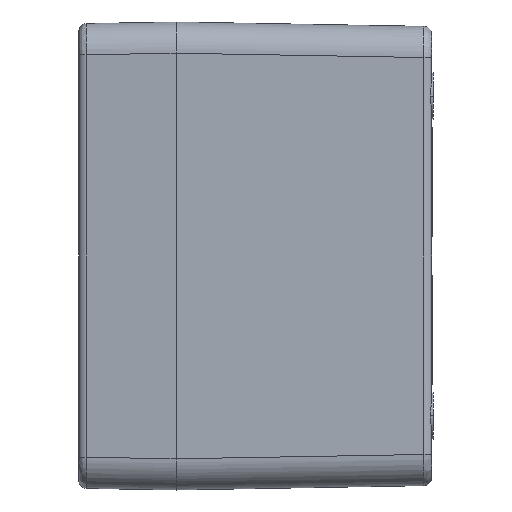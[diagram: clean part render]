
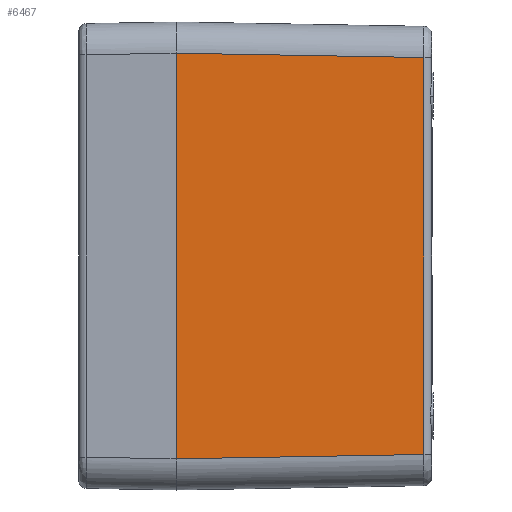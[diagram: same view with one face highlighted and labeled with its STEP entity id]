
A CAD part, left-side view. The second image highlights one B-rep face of the part: STEP entity #6467.
In plain terms, the highlighted planar face has unit normal (-1, -0.018, 0).
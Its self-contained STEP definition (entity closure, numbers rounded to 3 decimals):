
#942=CARTESIAN_POINT('',(-61.,65.5,-52.001));
#994=CARTESIAN_POINT('',(-61.,65.5,52.001));
#1007=DIRECTION('',(0.,0.,1.));
#1008=VECTOR('',#1007,104.002);
#1009=CARTESIAN_POINT('',(-61.,65.5,-52.001));
#1010=LINE('',#1009,#1008);
#1294=CARTESIAN_POINT('',(-59.891,1.965,
-50.892));
#1415=CARTESIAN_POINT('',(-59.891,1.965,50.892));
#1420=DIRECTION('',(0.,0.,-1.));
#1421=VECTOR('',#1420,101.784);
#1422=CARTESIAN_POINT('',(-59.891,1.965,50.892));
#1423=LINE('',#1422,#1421);
#1427=DIRECTION('',(0.017,-1.,0.017));
#1428=VECTOR('',#1427,63.554);
#1429=CARTESIAN_POINT('',(-61.,65.5,-52.001));
#1430=LINE('',#1429,#1428);
#1434=DIRECTION('',(0.017,-1.,-0.017));
#1435=VECTOR('',#1434,63.554);
#1436=CARTESIAN_POINT('',(-61.,65.5,52.001));
#1437=LINE('',#1436,#1435);
#5026=VERTEX_POINT('',#942);
#5027=VERTEX_POINT('',#994);
#5035=VERTEX_POINT('',#1294);
#5053=VERTEX_POINT('',#1415);
#6456=CARTESIAN_POINT('',(-61.,65.5,-63.259));
#6457=DIRECTION('',(-1.,-0.017,0.));
#6458=DIRECTION('',(0.,0.,1.));
#6459=AXIS2_PLACEMENT_3D('',#6456,#6457,#6458);
#6460=PLANE('',#6459);
#6461=ORIENTED_EDGE('',*,*,#5876,.T.);
#6462=ORIENTED_EDGE('',*,*,#6264,.F.);
#6463=ORIENTED_EDGE('',*,*,#6161,.T.);
#6464=ORIENTED_EDGE('',*,*,#6448,.T.);
#6465=EDGE_LOOP('',(#6461,#6462,#6463,#6464));
#6466=FACE_OUTER_BOUND('',#6465,.F.);
#5876=EDGE_CURVE('',#5053,#5035,#1423,.T.);
#6161=EDGE_CURVE('',#5026,#5027,#1010,.T.);
#6264=EDGE_CURVE('',#5026,#5035,#1430,.T.);
#6448=EDGE_CURVE('',#5027,#5053,#1437,.T.);
#6467=ADVANCED_FACE('',(#6466),#6460,.T.);
